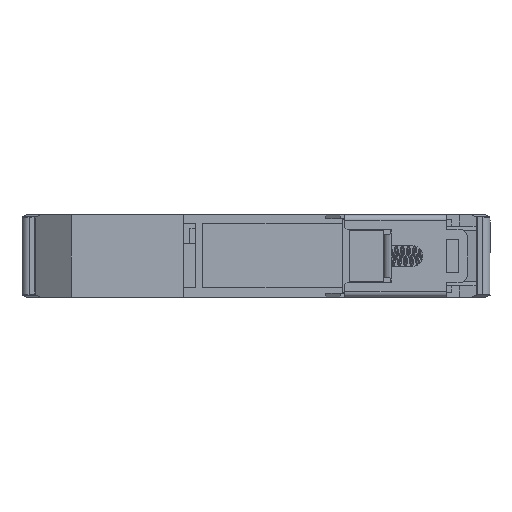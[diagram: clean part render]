
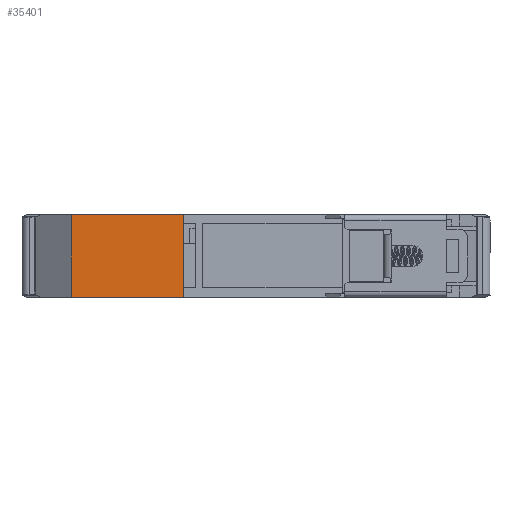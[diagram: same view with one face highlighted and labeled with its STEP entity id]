
A CAD part, front view. The second image highlights one B-rep face of the part: STEP entity #35401.
In plain terms, the highlighted planar face has unit normal (0, -1, 0).
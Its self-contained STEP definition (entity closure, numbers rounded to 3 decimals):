
#32 = PLANE('',#33);
#33 = AXIS2_PLACEMENT_3D('',#34,#35,#36);
#34 = CARTESIAN_POINT('',(0.,0.,0.));
#35 = DIRECTION('',(0.,0.,1.));
#36 = DIRECTION('',(1.,0.,-0.));
#57 = VERTEX_POINT('',#58);
#58 = CARTESIAN_POINT('',(-769.811,-1169.501,0.));
#72 = PLANE('',#73);
#73 = AXIS2_PLACEMENT_3D('',#74,#75,#76);
#74 = CARTESIAN_POINT('',(-777.261,-1163.801,-8.75));
#75 = DIRECTION('',(-0.608,-0.794,0.));
#76 = DIRECTION('',(0.794,-0.608,0.));
#84 = EDGE_CURVE('',#57,#85,#87,.T.);
#85 = VERTEX_POINT('',#86);
#86 = CARTESIAN_POINT('',(-746.111,-1169.501,0.));
#87 = SURFACE_CURVE('',#88,(#92,#99),.PCURVE_S1.);
#88 = LINE('',#89,#90);
#89 = CARTESIAN_POINT('',(-769.811,-1169.501,0.));
#90 = VECTOR('',#91,1.);
#91 = DIRECTION('',(1.,0.,0.));
#92 = PCURVE('',#32,#93);
#93 = DEFINITIONAL_REPRESENTATION('',(#94),#98);
#94 = LINE('',#95,#96);
#95 = CARTESIAN_POINT('',(-769.811,-1169.501));
#96 = VECTOR('',#97,1.);
#97 = DIRECTION('',(1.,0.));
#98 = ( GEOMETRIC_REPRESENTATION_CONTEXT(2) 
PARAMETRIC_REPRESENTATION_CONTEXT() REPRESENTATION_CONTEXT('2D SPACE',''
  ) );
#99 = PCURVE('',#100,#105);
#100 = PLANE('',#101);
#101 = AXIS2_PLACEMENT_3D('',#102,#103,#104);
#102 = CARTESIAN_POINT('',(-769.811,-1169.501,-8.75));
#103 = DIRECTION('',(0.,-1.,0.));
#104 = DIRECTION('',(1.,0.,0.));
#105 = DEFINITIONAL_REPRESENTATION('',(#106),#110);
#106 = LINE('',#107,#108);
#107 = CARTESIAN_POINT('',(0.,8.75));
#108 = VECTOR('',#109,1.);
#109 = DIRECTION('',(1.,0.));
#110 = ( GEOMETRIC_REPRESENTATION_CONTEXT(2) 
PARAMETRIC_REPRESENTATION_CONTEXT() REPRESENTATION_CONTEXT('2D SPACE',''
  ) );
#128 = PLANE('',#129);
#129 = AXIS2_PLACEMENT_3D('',#130,#131,#132);
#130 = CARTESIAN_POINT('',(-746.111,-1169.501,-8.75));
#131 = DIRECTION('',(1.,0.,0.));
#132 = DIRECTION('',(-0.,1.,0.));
#4011 = VERTEX_POINT('',#4012);
#4012 = CARTESIAN_POINT('',(-769.811,-1169.501,-17.5));
#4026 = PLANE('',#4027);
#4027 = AXIS2_PLACEMENT_3D('',#4028,#4029,#4030);
#4028 = CARTESIAN_POINT('',(0.,0.,-17.5));
#4029 = DIRECTION('',(0.,0.,-1.));
#4030 = DIRECTION('',(1.,0.,0.));
#4038 = EDGE_CURVE('',#4011,#57,#4039,.T.);
#4039 = SURFACE_CURVE('',#4040,(#4044,#4051),.PCURVE_S1.);
#4040 = LINE('',#4041,#4042);
#4041 = CARTESIAN_POINT('',(-769.811,-1169.501,-17.5));
#4042 = VECTOR('',#4043,1.);
#4043 = DIRECTION('',(0.,0.,1.));
#4044 = PCURVE('',#72,#4045);
#4045 = DEFINITIONAL_REPRESENTATION('',(#4046),#4050);
#4046 = LINE('',#4047,#4048);
#4047 = CARTESIAN_POINT('',(9.38,-8.75));
#4048 = VECTOR('',#4049,1.);
#4049 = DIRECTION('',(0.,1.));
#4050 = ( GEOMETRIC_REPRESENTATION_CONTEXT(2) 
PARAMETRIC_REPRESENTATION_CONTEXT() REPRESENTATION_CONTEXT('2D SPACE',''
  ) );
#4051 = PCURVE('',#100,#4052);
#4052 = DEFINITIONAL_REPRESENTATION('',(#4053),#4057);
#4053 = LINE('',#4054,#4055);
#4054 = CARTESIAN_POINT('',(0.,-8.75));
#4055 = VECTOR('',#4056,1.);
#4056 = DIRECTION('',(0.,1.));
#4057 = ( GEOMETRIC_REPRESENTATION_CONTEXT(2) 
PARAMETRIC_REPRESENTATION_CONTEXT() REPRESENTATION_CONTEXT('2D SPACE',''
  ) );
#35305 = EDGE_CURVE('',#85,#35306,#35308,.T.);
#35306 = VERTEX_POINT('',#35307);
#35307 = CARTESIAN_POINT('',(-746.111,-1169.501,-17.5));
#35308 = SURFACE_CURVE('',#35309,(#35313,#35320),.PCURVE_S1.);
#35309 = LINE('',#35310,#35311);
#35310 = CARTESIAN_POINT('',(-746.111,-1169.501,0.));
#35311 = VECTOR('',#35312,1.);
#35312 = DIRECTION('',(0.,0.,-1.));
#35313 = PCURVE('',#128,#35314);
#35314 = DEFINITIONAL_REPRESENTATION('',(#35315),#35319);
#35315 = LINE('',#35316,#35317);
#35316 = CARTESIAN_POINT('',(0.,8.75));
#35317 = VECTOR('',#35318,1.);
#35318 = DIRECTION('',(0.,-1.));
#35319 = ( GEOMETRIC_REPRESENTATION_CONTEXT(2) 
PARAMETRIC_REPRESENTATION_CONTEXT() REPRESENTATION_CONTEXT('2D SPACE',''
  ) );
#35320 = PCURVE('',#100,#35321);
#35321 = DEFINITIONAL_REPRESENTATION('',(#35322),#35326);
#35322 = LINE('',#35323,#35324);
#35323 = CARTESIAN_POINT('',(23.7,8.75));
#35324 = VECTOR('',#35325,1.);
#35325 = DIRECTION('',(0.,-1.));
#35326 = ( GEOMETRIC_REPRESENTATION_CONTEXT(2) 
PARAMETRIC_REPRESENTATION_CONTEXT() REPRESENTATION_CONTEXT('2D SPACE',''
  ) );
#35401 = ADVANCED_FACE('',(#35402),#100,.T.);
#35402 = FACE_BOUND('',#35403,.T.);
#35403 = EDGE_LOOP('',(#35404,#35405,#35406,#35427));
#35404 = ORIENTED_EDGE('',*,*,#84,.F.);
#35405 = ORIENTED_EDGE('',*,*,#4038,.F.);
#35406 = ORIENTED_EDGE('',*,*,#35407,.T.);
#35407 = EDGE_CURVE('',#4011,#35306,#35408,.T.);
#35408 = SURFACE_CURVE('',#35409,(#35413,#35420),.PCURVE_S1.);
#35409 = LINE('',#35410,#35411);
#35410 = CARTESIAN_POINT('',(-769.811,-1169.501,-17.5));
#35411 = VECTOR('',#35412,1.);
#35412 = DIRECTION('',(1.,0.,0.));
#35413 = PCURVE('',#100,#35414);
#35414 = DEFINITIONAL_REPRESENTATION('',(#35415),#35419);
#35415 = LINE('',#35416,#35417);
#35416 = CARTESIAN_POINT('',(0.,-8.75));
#35417 = VECTOR('',#35418,1.);
#35418 = DIRECTION('',(1.,0.));
#35419 = ( GEOMETRIC_REPRESENTATION_CONTEXT(2) 
PARAMETRIC_REPRESENTATION_CONTEXT() REPRESENTATION_CONTEXT('2D SPACE',''
  ) );
#35420 = PCURVE('',#4026,#35421);
#35421 = DEFINITIONAL_REPRESENTATION('',(#35422),#35426);
#35422 = LINE('',#35423,#35424);
#35423 = CARTESIAN_POINT('',(-769.811,1169.501));
#35424 = VECTOR('',#35425,1.);
#35425 = DIRECTION('',(1.,0.));
#35426 = ( GEOMETRIC_REPRESENTATION_CONTEXT(2) 
PARAMETRIC_REPRESENTATION_CONTEXT() REPRESENTATION_CONTEXT('2D SPACE',''
  ) );
#35427 = ORIENTED_EDGE('',*,*,#35305,.F.);
